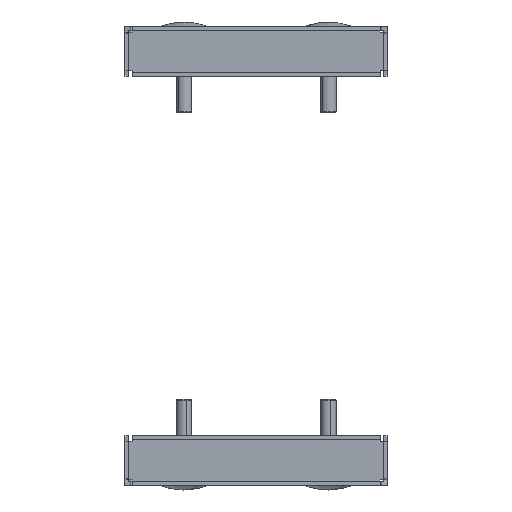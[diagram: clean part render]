
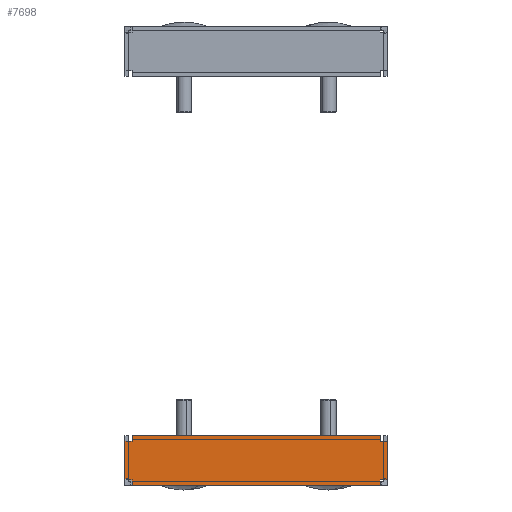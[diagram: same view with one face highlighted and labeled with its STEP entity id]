
A CAD part, left-side view. The second image highlights one B-rep face of the part: STEP entity #7698.
In plain terms, the highlighted planar face has unit normal (-1, 0, 0).
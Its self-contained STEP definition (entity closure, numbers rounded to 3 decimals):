
#63 = VECTOR ( 'NONE', #3131, 1000. ) ;
#184 = CARTESIAN_POINT ( 'NONE',  ( -299.5, 47.9, 0.6 ) ) ;
#241 = LINE ( 'NONE', #6531, #5056 ) ;
#248 = EDGE_CURVE ( 'NONE', #519, #2604, #5995, .T. ) ;
#313 = ORIENTED_EDGE ( 'NONE', *, *, #5924, .T. ) ;
#427 = EDGE_LOOP ( 'NONE', ( #1776, #5434, #1388, #8848, #5189, #1712, #5728, #313, #5703, #9571, #4178, #7405, #2530, #4382, #5646, #4492 ) ) ;
#490 = EDGE_CURVE ( 'NONE', #3930, #9933, #6113, .T. ) ;
#496 = VERTEX_POINT ( 'NONE', #7785 ) ;
#519 = VERTEX_POINT ( 'NONE', #885 ) ;
#829 = LINE ( 'NONE', #3886, #63 ) ;
#847 = LINE ( 'NONE', #2345, #1960 ) ;
#885 = CARTESIAN_POINT ( 'NONE',  ( -299.5, 47.3, -1.5 ) ) ;
#903 = CARTESIAN_POINT ( 'NONE',  ( -299.5, -47.3, 0. ) ) ;
#909 = CARTESIAN_POINT ( 'NONE',  ( -299.5, -47.3, -1.5 ) ) ;
#1058 = DIRECTION ( 'NONE',  ( 0., 0., -1. ) ) ;
#1067 = DIRECTION ( 'NONE',  ( 0., 1., 0. ) ) ;
#1131 = FACE_OUTER_BOUND ( 'NONE', #427, .T. ) ;
#1326 = VERTEX_POINT ( 'NONE', #5574 ) ;
#1350 = CARTESIAN_POINT ( 'NONE',  ( -299.5, -47.9, 0.6 ) ) ;
#1388 = ORIENTED_EDGE ( 'NONE', *, *, #5636, .F. ) ;
#1447 = VERTEX_POINT ( 'NONE', #5116 ) ;
#1468 = VECTOR ( 'NONE', #3704, 1000. ) ;
#1480 = CARTESIAN_POINT ( 'NONE',  ( -299.5, -49.649, 0.758 ) ) ;
#1529 = CARTESIAN_POINT ( 'NONE',  ( -299.5, -48.249, 0.637 ) ) ;
#1617 = DIRECTION ( 'NONE',  ( 0., -1., 0. ) ) ;
#1683 = AXIS2_PLACEMENT_3D ( 'NONE', #4184, #4829, #4876 ) ;
#1691 = DIRECTION ( 'NONE',  ( 0., 0., 1. ) ) ;
#1709 = VERTEX_POINT ( 'NONE', #9598 ) ;
#1712 = ORIENTED_EDGE ( 'NONE', *, *, #9200, .T. ) ;
#1750 = CARTESIAN_POINT ( 'NONE',  ( -299.5, 47.3, 0. ) ) ;
#1768 = LINE ( 'NONE', #5784, #4732 ) ;
#1776 = ORIENTED_EDGE ( 'NONE', *, *, #5767, .T. ) ;
#1828 = CARTESIAN_POINT ( 'NONE',  ( -299.5, -47.9, 15.4 ) ) ;
#1839 = EDGE_CURVE ( 'NONE', #7804, #4816, #4385, .T. ) ;
#1960 = VECTOR ( 'NONE', #5463, 1000. ) ;
#2133 = CARTESIAN_POINT ( 'NONE',  ( -299.5, -50., 0.777 ) ) ;
#2345 = CARTESIAN_POINT ( 'NONE',  ( -299.5, 47.9, 15.4 ) ) ;
#2530 = ORIENTED_EDGE ( 'NONE', *, *, #3678, .F. ) ;
#2604 = VERTEX_POINT ( 'NONE', #909 ) ;
#2635 = DIRECTION ( 'NONE',  ( 0., 0., -1. ) ) ;
#2704 = EDGE_CURVE ( 'NONE', #1709, #519, #7866, .T. ) ;
#2724 = CARTESIAN_POINT ( 'NONE',  ( -299.5, 48.599, 0.674 ) ) ;
#2782 = DIRECTION ( 'NONE',  ( 0., 0., -1. ) ) ;
#2850 = VECTOR ( 'NONE', #1691, 1000. ) ;
#2990 = CARTESIAN_POINT ( 'NONE',  ( -299.5, -47.3, 15.4 ) ) ;
#3081 = CARTESIAN_POINT ( 'NONE',  ( -299.5, -48.599, 0.674 ) ) ;
#3131 = DIRECTION ( 'NONE',  ( 0., -1., 0. ) ) ;
#3678 = EDGE_CURVE ( 'NONE', #7241, #6324, #5169, .T. ) ;
#3704 = DIRECTION ( 'NONE',  ( 0., 1., 0. ) ) ;
#3857 = EDGE_CURVE ( 'NONE', #4986, #5727, #847, .T. ) ;
#3886 = CARTESIAN_POINT ( 'NONE',  ( -299.5, 0., 17.5 ) ) ;
#3930 = VERTEX_POINT ( 'NONE', #7899 ) ;
#4011 = LINE ( 'NONE', #903, #4714 ) ;
#4078 = VECTOR ( 'NONE', #5562, 1000. ) ;
#4136 = VECTOR ( 'NONE', #1617, 1000. ) ;
#4151 = DIRECTION ( 'NONE',  ( 0., -1., 0. ) ) ;
#4178 = ORIENTED_EDGE ( 'NONE', *, *, #248, .T. ) ;
#4184 = CARTESIAN_POINT ( 'NONE',  ( -299.5, 0., 0. ) ) ;
#4207 = DIRECTION ( 'NONE',  ( 0., -1., 0. ) ) ;
#4382 = ORIENTED_EDGE ( 'NONE', *, *, #5594, .T. ) ;
#4385 = LINE ( 'NONE', #5904, #9479 ) ;
#4478 = VECTOR ( 'NONE', #6492, 1000. ) ;
#4492 = ORIENTED_EDGE ( 'NONE', *, *, #9680, .F. ) ;
#4535 = CARTESIAN_POINT ( 'NONE',  ( -299.5, -49.299, 0.734 ) ) ;
#4538 = VECTOR ( 'NONE', #2635, 1000. ) ;
#4541 = EDGE_CURVE ( 'NONE', #1447, #1709, #7082, .T. ) ;
#4620 = CARTESIAN_POINT ( 'NONE',  ( -299.5, 0., -1.5 ) ) ;
#4714 = VECTOR ( 'NONE', #1058, 1000. ) ;
#4732 = VECTOR ( 'NONE', #1067, 1000. ) ;
#4816 = VERTEX_POINT ( 'NONE', #8562 ) ;
#4829 = DIRECTION ( 'NONE',  ( 1., 0., 0. ) ) ;
#4841 = LINE ( 'NONE', #9549, #4538 ) ;
#4876 = DIRECTION ( 'NONE',  ( 0., 0., -1. ) ) ;
#4879 = DIRECTION ( 'NONE',  ( 0., 1., 0. ) ) ;
#4986 = VERTEX_POINT ( 'NONE', #7260 ) ;
#5031 = CARTESIAN_POINT ( 'NONE',  ( -299.5, 50., 0.777 ) ) ;
#5056 = VECTOR ( 'NONE', #4207, 1000. ) ;
#5116 = CARTESIAN_POINT ( 'NONE',  ( -299.5, 47.9, 0.6 ) ) ;
#5169 = LINE ( 'NONE', #1350, #1468 ) ;
#5189 = ORIENTED_EDGE ( 'NONE', *, *, #3857, .F. ) ;
#5383 = VERTEX_POINT ( 'NONE', #2133 ) ;
#5434 = ORIENTED_EDGE ( 'NONE', *, *, #490, .T. ) ;
#5463 = DIRECTION ( 'NONE',  ( 0., -1., 0. ) ) ;
#5510 = CARTESIAN_POINT ( 'NONE',  ( -299.5, -47.9, 0.6 ) ) ;
#5562 = DIRECTION ( 'NONE',  ( 0., 0., 1. ) ) ;
#5574 = CARTESIAN_POINT ( 'NONE',  ( -299.5, 47.3, 17.5 ) ) ;
#5594 = EDGE_CURVE ( 'NONE', #7241, #5383, #7695, .T. ) ;
#5600 = LINE ( 'NONE', #1828, #9413 ) ;
#5636 = EDGE_CURVE ( 'NONE', #1326, #9933, #829, .T. ) ;
#5646 = ORIENTED_EDGE ( 'NONE', *, *, #6575, .F. ) ;
#5703 = ORIENTED_EDGE ( 'NONE', *, *, #4541, .T. ) ;
#5727 = VERTEX_POINT ( 'NONE', #7225 ) ;
#5728 = ORIENTED_EDGE ( 'NONE', *, *, #1839, .T. ) ;
#5749 = PLANE ( 'NONE',  #1683 ) ;
#5767 = EDGE_CURVE ( 'NONE', #496, #3930, #5600, .T. ) ;
#5784 = CARTESIAN_POINT ( 'NONE',  ( -299.5, 47.9, 15.4 ) ) ;
#5796 = CARTESIAN_POINT ( 'NONE',  ( -299.5, 48.249, 0.637 ) ) ;
#5904 = CARTESIAN_POINT ( 'NONE',  ( -299.5, 50., 0. ) ) ;
#5924 = EDGE_CURVE ( 'NONE', #4816, #1447, #8404, .T. ) ;
#5995 = LINE ( 'NONE', #4620, #4136 ) ;
#6113 = LINE ( 'NONE', #2990, #2850 ) ;
#6292 = EDGE_CURVE ( 'NONE', #6324, #2604, #4011, .T. ) ;
#6324 = VERTEX_POINT ( 'NONE', #7096 ) ;
#6492 = DIRECTION ( 'NONE',  ( 0., 0., -1. ) ) ;
#6531 = CARTESIAN_POINT ( 'NONE',  ( -299.5, 0., 15.4 ) ) ;
#6575 = EDGE_CURVE ( 'NONE', #7025, #5383, #4841, .T. ) ;
#6608 = CARTESIAN_POINT ( 'NONE',  ( -299.5, 49.299, 0.734 ) ) ;
#6798 = CARTESIAN_POINT ( 'NONE',  ( -299.5, 50., 15.4 ) ) ;
#7025 = VERTEX_POINT ( 'NONE', #7348 ) ;
#7082 = LINE ( 'NONE', #184, #9048 ) ;
#7096 = CARTESIAN_POINT ( 'NONE',  ( -299.5, -47.3, 0.6 ) ) ;
#7225 = CARTESIAN_POINT ( 'NONE',  ( -299.5, 47.3, 15.4 ) ) ;
#7241 = VERTEX_POINT ( 'NONE', #5510 ) ;
#7256 = CARTESIAN_POINT ( 'NONE',  ( -299.5, 47.3, 0.6 ) ) ;
#7260 = CARTESIAN_POINT ( 'NONE',  ( -299.5, 47.9, 15.4 ) ) ;
#7348 = CARTESIAN_POINT ( 'NONE',  ( -299.5, -50., 15.4 ) ) ;
#7398 = EDGE_CURVE ( 'NONE', #5727, #1326, #9409, .T. ) ;
#7405 = ORIENTED_EDGE ( 'NONE', *, *, #6292, .F. ) ;
#7695 = B_SPLINE_CURVE_WITH_KNOTS ( 'NONE', 3,
 ( #8432, #1529, #3081, #4535, #1480, #9342 ),
 .UNSPECIFIED., .F., .F.,
 ( 4, 2, 4 ),
 ( 0.006, 0.007, 0.008 ),
 .UNSPECIFIED. ) ;
#7698 = ADVANCED_FACE ( 'NONE', ( #1131 ), #5749, .F. ) ;
#7785 = CARTESIAN_POINT ( 'NONE',  ( -299.5, -47.9, 15.4 ) ) ;
#7804 = VERTEX_POINT ( 'NONE', #6798 ) ;
#7866 = LINE ( 'NONE', #7256, #4478 ) ;
#7899 = CARTESIAN_POINT ( 'NONE',  ( -299.5, -47.3, 15.4 ) ) ;
#8125 = CARTESIAN_POINT ( 'NONE',  ( -299.5, 47.9, 0.6 ) ) ;
#8404 = B_SPLINE_CURVE_WITH_KNOTS ( 'NONE', 3,
 ( #5031, #8983, #6608, #2724, #5796, #8125 ),
 .UNSPECIFIED., .F., .F.,
 ( 4, 2, 4 ),
 ( 0.006, 0.007, 0.008 ),
 .UNSPECIFIED. ) ;
#8432 = CARTESIAN_POINT ( 'NONE',  ( -299.5, -47.9, 0.6 ) ) ;
#8562 = CARTESIAN_POINT ( 'NONE',  ( -299.5, 50., 0.777 ) ) ;
#8592 = CARTESIAN_POINT ( 'NONE',  ( -299.5, -47.3, 17.5 ) ) ;
#8848 = ORIENTED_EDGE ( 'NONE', *, *, #7398, .F. ) ;
#8983 = CARTESIAN_POINT ( 'NONE',  ( -299.5, 49.649, 0.758 ) ) ;
#9048 = VECTOR ( 'NONE', #4151, 1000. ) ;
#9200 = EDGE_CURVE ( 'NONE', #4986, #7804, #1768, .T. ) ;
#9342 = CARTESIAN_POINT ( 'NONE',  ( -299.5, -50., 0.777 ) ) ;
#9409 = LINE ( 'NONE', #1750, #4078 ) ;
#9413 = VECTOR ( 'NONE', #4879, 1000. ) ;
#9479 = VECTOR ( 'NONE', #2782, 1000. ) ;
#9549 = CARTESIAN_POINT ( 'NONE',  ( -299.5, -50., 0. ) ) ;
#9571 = ORIENTED_EDGE ( 'NONE', *, *, #2704, .T. ) ;
#9598 = CARTESIAN_POINT ( 'NONE',  ( -299.5, 47.3, 0.6 ) ) ;
#9680 = EDGE_CURVE ( 'NONE', #496, #7025, #241, .T. ) ;
#9933 = VERTEX_POINT ( 'NONE', #8592 ) ;
